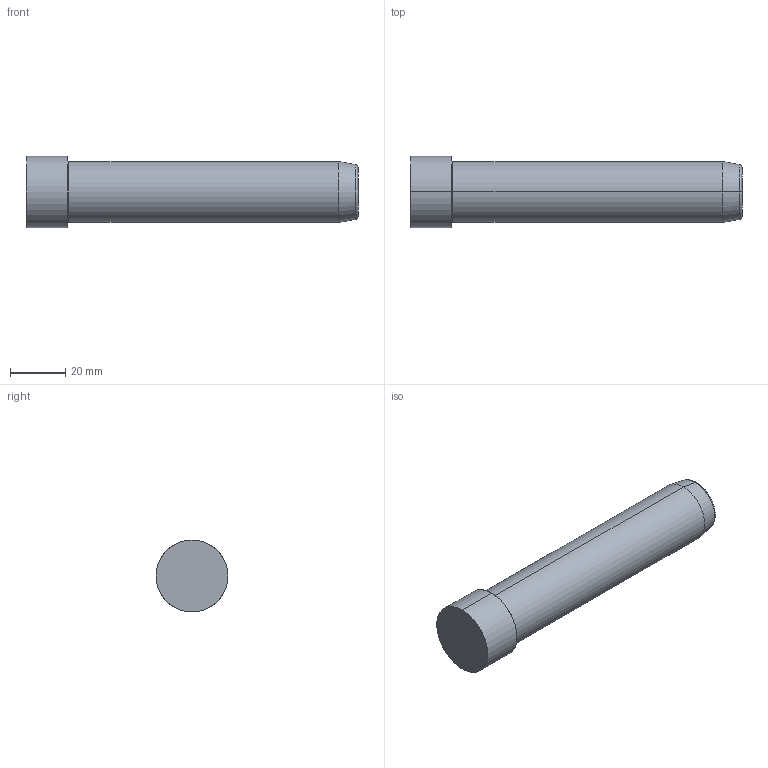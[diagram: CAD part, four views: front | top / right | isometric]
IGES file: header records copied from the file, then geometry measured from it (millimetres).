
Start section: SolidWorks IGES FILE using analytic representation for surfaces
Global section: file name: D:\zzzzz\Delta\D01 D\22\D01 D - 22x120.IGS; native system: SolidWorks 2004 by SolidWorks Corporation; preprocessor: Version 5.3; author: Hkn; date: 080327.145136; units: millimetre
Bounding box: 120 x 26 x 26 mm (x, y, z)
Surface area: 9459.3 mm2 (no closed solid volume)
Topology: 0 solids, 0 shells, 14 faces, 232 edges, 232 vertices
Faces by surface type: revolution 8, bspline 6
